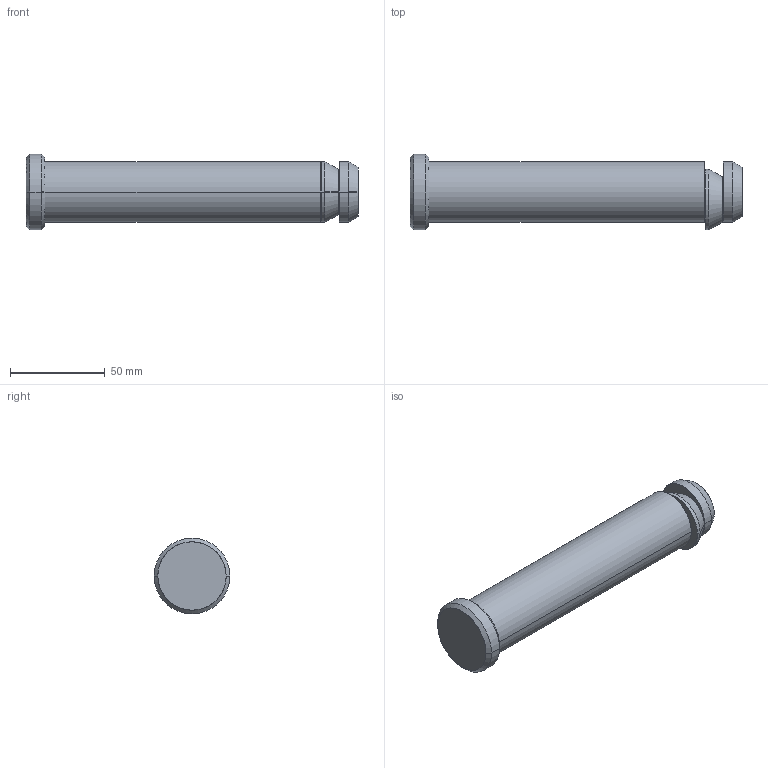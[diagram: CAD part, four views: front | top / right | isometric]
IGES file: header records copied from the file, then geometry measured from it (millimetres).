
Start section: START RECORD GO HERE.
Global section: file name: 395W-032-175.igs; native system: DASSAULT SYSTEMES CATIA V5 R20 - www.3ds.com; preprocessor: CATIA Version 5 Release 20 ; author: Utente; organization: NB04-ASUS; date: 20200410.165812; units: millimetre
Bounding box: 175 x 40.01 x 40 mm (x, y, z)
Surface area: 22608.8 mm2 (no closed solid volume)
Topology: 0 solids, 0 shells, 27 faces, 116 edges, 116 vertices
Faces by surface type: revolution 20, extrusion 7
